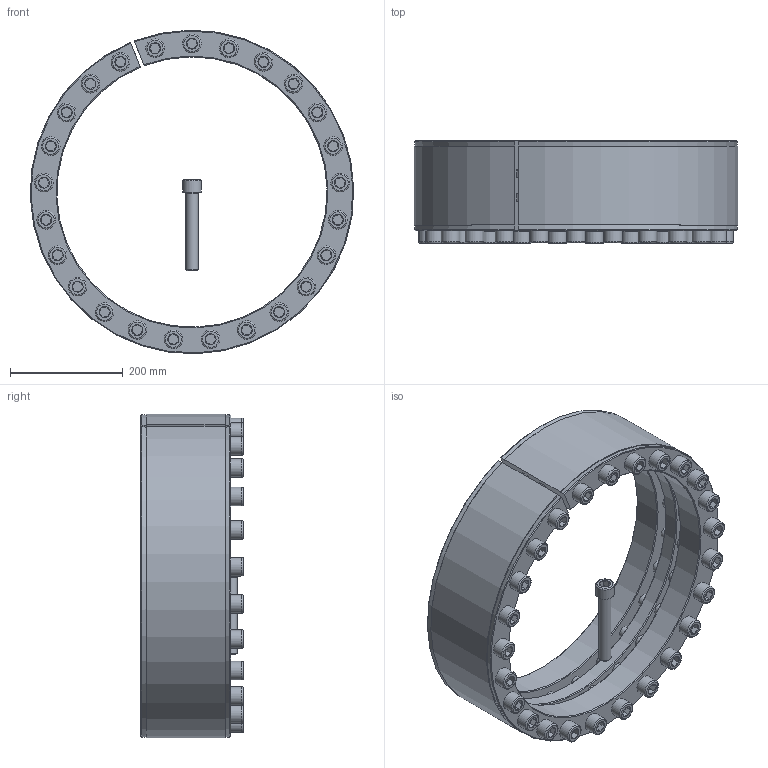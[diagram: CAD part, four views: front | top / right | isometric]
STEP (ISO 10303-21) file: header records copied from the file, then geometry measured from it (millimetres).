
FILE_DESCRIPTION( ( 'Unknown' ), '1' );
FILE_NAME( 'C:/Users/Frank/Eigene Daten/CAD/Solid Edge/KBK Karpstein/KBS Layout Baureihen/KBS 18/KBS 18 - 480 x 575.stp', 'Unknown', ( 'Unknown' ), ( 'Unknown' ), 'XStep 1.0', 'Unknown', ' ' );
FILE_SCHEMA( ( 'automotive_design' ) );
Length unit declared in the file: millimetre
Products named in the file (3): Assem1; ISO EN DIN 4762 M22x140; KBS 18 - 480 x 575
Bounding box: 574.74 x 182 x 574.83 mm (x, y, z)
Volume: 20362858.6 mm3; surface area: 2557834.3 mm2
Topology: 28 solids, 28 shells, 852 faces, 1786 edges, 1094 vertices
Faces by surface type: plane 332, cylinder 262, cone 206, torus 52
Full cylindrical faces by diameter (mm): 18 x26, 19.294 x50, 22 x52, 24 x100, 33 x26
Entity records: 4402 total; most frequent: CARTESIAN_POINT 773, DIRECTION 724, ORIENTED_EDGE 514, EDGE_LOOP 362, AXIS2_PLACEMENT_3D 344, EDGE_CURVE 257, VERTEX_POINT 221, FACE_OUTER_BOUND 207
